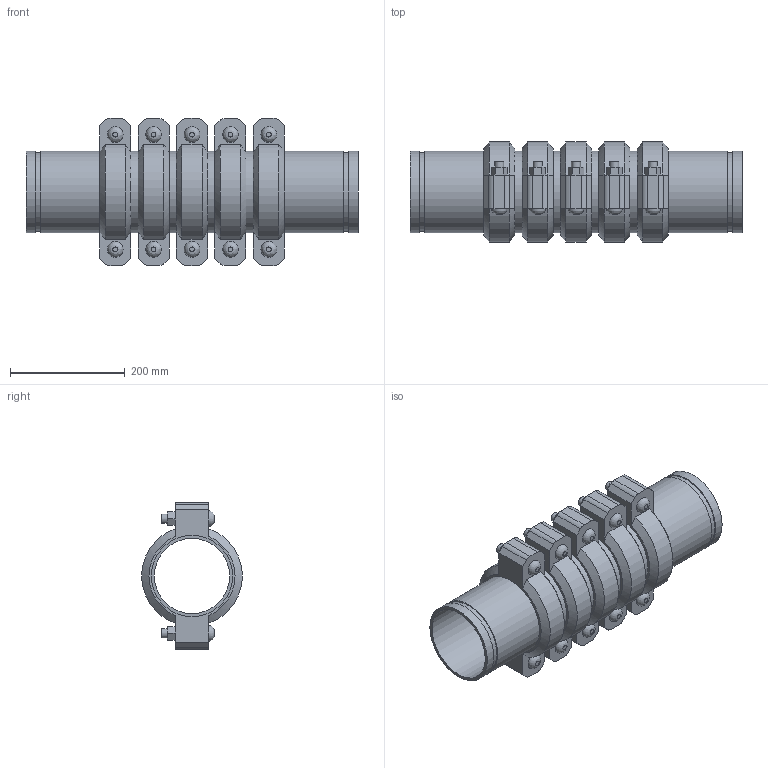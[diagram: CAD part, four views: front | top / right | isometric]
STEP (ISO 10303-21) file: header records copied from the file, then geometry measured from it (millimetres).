
FILE_DESCRIPTION(/* description */ ('VIC EXPANSION JOINT 5 COUPLINGS EXPANDED STYLE 155 (OGS)','CAx-IF Rec.Pracs.---Representation and Presentation of Product Manufacturing Information (PMI)---4.0---2014-10-13'),/* implementation_level */ '2;1');
FILE_NAME(/* name */ 'C:\Users\kkamble\AppData\Roaming\Autodesk\ApplicationPlugins\Victaulic.Temp\A557\Victaulic_IPS_Expansion Joint_Expanded_5 Couplings_Style 155 (OGS)_5 (125).stp',/* time_stamp */ '2021-06-27T00:02:43+02:00',/* author */ ('kkamble'),/* organization */ ('Victaulic'),/* preprocessor_version */ 'ST-DEVELOPER v17.2',/* originating_system */ 'Autodesk Inventor 2019',/* authorisation */ '');
FILE_SCHEMA (('AP242_MANAGED_MODEL_BASED_3D_ENGINEERING_MIM_LF { 1 0 10303 442 1 1 4 }'));
Length unit declared in the file: inch
Products named in the file (4): 155-05.0; Nipple-05.0; Nipple-05.0_1; 075-05.0
Assembly tree (11 placements, depth 2):
  155-05.0
    Nipple-05.0  x2
    Nipple-05.0_1  x4
    075-05.0  x5
Bounding box: 577.6 x 174.16 x 255.78 mm (x, y, z)
Volume: 4498647.2 mm3; surface area: 1034328.1 mm2
Topology: 11 solids, 21 shells, 357 faces, 845 edges, 594 vertices
Faces by surface type: plane 216, cylinder 111, cone 20, bspline 10
Full cylindrical faces by diameter (mm): 15.875 x20, 17.424 x10, 130.988 x6, 134.95 x5, 137.033 x12, 141.3 x28
Entity records: 2801 total; most frequent: CARTESIAN_POINT 495, DIRECTION 465, ORIENTED_EDGE 386, EDGE_CURVE 193, AXIS2_PLACEMENT_3D 186, VERTEX_POINT 138, EDGE_LOOP 107, LINE 93
